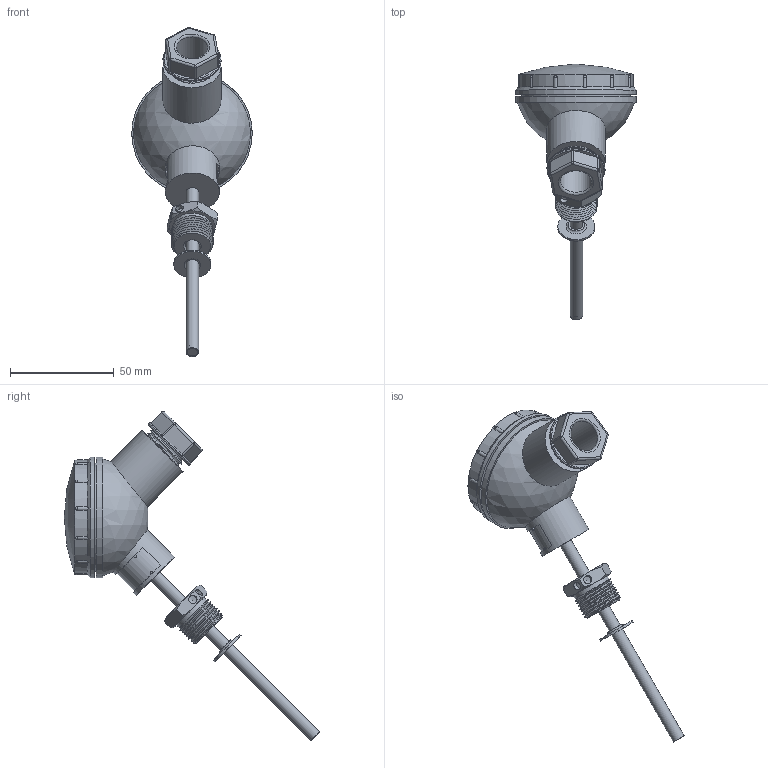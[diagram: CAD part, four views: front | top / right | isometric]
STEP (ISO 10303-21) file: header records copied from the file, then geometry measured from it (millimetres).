
FILE_DESCRIPTION(('STEP AP242'), '1');
FILE_NAME('栖闉罻 3.1.00.02', '', ('UNSPECIFIED'), ('UNSPECIFIED'), 'ASCON STEP Converter 1.6', 'ASCON Math Kernel', '');
FILE_SCHEMA(('AP242_MANAGED_MODEL_BASED_3D_ENGINEERING_MIM_LF { 1 0 10303 442 1 1 4 }'));
Length unit declared in the file: millimetre
Products named in the file (13): Сборка405111-001угл; Шайба 758480-006; Шайба 4; Прокладка 754100-000; Винт 715341-000; Гайка М4; Заглушка 754100-001; Крышка 735214-000; Кожух 731196-000-00; Шайба 758480-001-01; Трубка 723110-004; Гайка 758480-000
Assembly tree (21 placements, depth 3):
  Сборка405111-001угл
    Шайба 758480-006  x4
    Шайба 4  x4
    Прокладка 754100-000
    Винт 715341-000
    Гайка М4  x4
    Заглушка 754100-001
    Крышка 735214-000
    Кожух 731196-000-00
    (unnamed)
      Шайба 758480-001-01
      Трубка 723110-004
      Гайка 758480-000
Bounding box: 58 x 122.94 x 158.43 mm (x, y, z)
Volume: 67848.7 mm3; surface area: 42949.9 mm2
Topology: 22 solids, 22 shells, 559 faces, 1418 edges, 899 vertices
Faces by surface type: cylinder 237, plane 188, bspline 56, cone 54, torus 16, sphere 8
Full cylindrical faces by diameter (mm): 1.6 x1, 4 x7, 4.2 x4, 5 x2, 6 x4, 6.5 x1, 9 x4, 12 x2, 15 x1, 15.4 x1, 18 x1, 18.94 x1, 19.2 x1, 20 x1, 26 x1, 28 x2, 44 x1, 47 x2, 48 x1, 52 x1, 53 x1, 54 x1, 55 x1, 58 x2
Entity records: 90134 total; most frequent: CARTESIAN_POINT 75950, ORIENTED_EDGE 2150, DIRECTION 1662, EDGE_CURVE 1075, VERTEX_POINT 729, AXIS2_PLACEMENT_3D 673, EDGE_LOOP 556, B_SPLINE_CURVE_WITH_KNOTS 484
